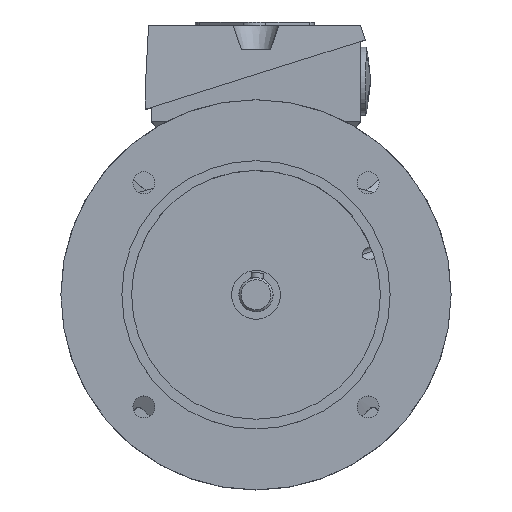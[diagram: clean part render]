
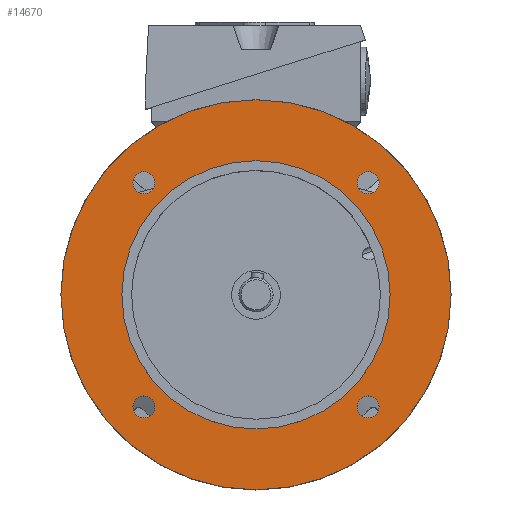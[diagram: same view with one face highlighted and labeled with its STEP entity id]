
A CAD part, top view. The second image highlights one B-rep face of the part: STEP entity #14670.
In plain terms, the highlighted planar face has unit normal (0, 0, 1).
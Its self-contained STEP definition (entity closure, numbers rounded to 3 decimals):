
#71 = CIRCLE ( 'NONE', #12472, 4.5 ) ;
#165 = FACE_BOUND ( 'NONE', #6524, .T. ) ;
#430 = CARTESIAN_POINT ( 'NONE',  ( 45.962, 45.962, 11. ) ) ;
#525 = DIRECTION ( 'NONE',  ( 0., 0., 1. ) ) ;
#562 = VERTEX_POINT ( 'NONE', #15810 ) ;
#591 = AXIS2_PLACEMENT_3D ( 'NONE', #1904, #17075, #798 ) ;
#798 = DIRECTION ( 'NONE',  ( 1., 0., 0. ) ) ;
#1185 = DIRECTION ( 'NONE',  ( 1., 0., 0. ) ) ;
#1286 = VERTEX_POINT ( 'NONE', #11515 ) ;
#1904 = CARTESIAN_POINT ( 'NONE',  ( -45.962, -45.962, 11. ) ) ;
#2006 = EDGE_LOOP ( 'NONE', ( #11601, #9862 ) ) ;
#2332 = CIRCLE ( 'NONE', #11299, 80. ) ;
#2551 = DIRECTION ( 'NONE',  ( 0., 0., 1. ) ) ;
#2607 = CIRCLE ( 'NONE', #5206, 4.5 ) ;
#2693 = VERTEX_POINT ( 'NONE', #7103 ) ;
#2876 = AXIS2_PLACEMENT_3D ( 'NONE', #8389, #13879, #6680 ) ;
#3071 = VERTEX_POINT ( 'NONE', #5876 ) ;
#3089 = CARTESIAN_POINT ( 'NONE',  ( -41.462, 45.962, 11. ) ) ;
#3840 = EDGE_CURVE ( 'NONE', #11540, #17221, #11926, .T. ) ;
#3858 = CIRCLE ( 'NONE', #16841, 4.5 ) ;
#4167 = DIRECTION ( 'NONE',  ( -1., 0., 0. ) ) ;
#4211 = ORIENTED_EDGE ( 'NONE', *, *, #12879, .F. ) ;
#4245 = FACE_BOUND ( 'NONE', #9556, .T. ) ;
#4431 = AXIS2_PLACEMENT_3D ( 'NONE', #10766, #10943, #14905 ) ;
#4500 = CARTESIAN_POINT ( 'NONE',  ( -45.962, -45.962, 11. ) ) ;
#4624 = AXIS2_PLACEMENT_3D ( 'NONE', #4500, #10849, #1185 ) ;
#4732 = CARTESIAN_POINT ( 'NONE',  ( 0., 0., 11. ) ) ;
#5206 = AXIS2_PLACEMENT_3D ( 'NONE', #10104, #9028, #8839 ) ;
#5826 = EDGE_CURVE ( 'NONE', #3071, #8635, #12100, .T. ) ;
#5876 = CARTESIAN_POINT ( 'NONE',  ( -50.462, 45.962, 11. ) ) ;
#5897 = DIRECTION ( 'NONE',  ( 1., 0., 0. ) ) ;
#6194 = VERTEX_POINT ( 'NONE', #13258 ) ;
#6400 = DIRECTION ( 'NONE',  ( 0., 1., 0. ) ) ;
#6428 = CARTESIAN_POINT ( 'NONE',  ( 50.462, -45.962, 11. ) ) ;
#6476 = EDGE_CURVE ( 'NONE', #16672, #1286, #2607, .T. ) ;
#6524 = EDGE_LOOP ( 'NONE', ( #17555, #7233 ) ) ;
#6680 = DIRECTION ( 'NONE',  ( 0., -1., 0. ) ) ;
#6964 = CARTESIAN_POINT ( 'NONE',  ( 0., 55., 11. ) ) ;
#7103 = CARTESIAN_POINT ( 'NONE',  ( 50.462, 45.962, 11. ) ) ;
#7193 = ORIENTED_EDGE ( 'NONE', *, *, #10301, .F. ) ;
#7233 = ORIENTED_EDGE ( 'NONE', *, *, #9941, .F. ) ;
#7728 = EDGE_CURVE ( 'NONE', #9902, #6194, #12774, .T. ) ;
#7948 = EDGE_LOOP ( 'NONE', ( #7193, #15213 ) ) ;
#8127 = DIRECTION ( 'NONE',  ( 0., 0., 1. ) ) ;
#8389 = CARTESIAN_POINT ( 'NONE',  ( -45.962, 45.962, 11. ) ) ;
#8407 = CIRCLE ( 'NONE', #591, 4.5 ) ;
#8619 = DIRECTION ( 'NONE',  ( 0., 0., 1. ) ) ;
#8635 = VERTEX_POINT ( 'NONE', #3089 ) ;
#8739 = AXIS2_PLACEMENT_3D ( 'NONE', #14790, #8127, #13617 ) ;
#8839 = DIRECTION ( 'NONE',  ( 0., 1., 0. ) ) ;
#9028 = DIRECTION ( 'NONE',  ( 0., 0., 1. ) ) ;
#9556 = EDGE_LOOP ( 'NONE', ( #17844, #11426 ) ) ;
#9625 = VERTEX_POINT ( 'NONE', #17619 ) ;
#9757 = FACE_OUTER_BOUND ( 'NONE', #11378, .T. ) ;
#9837 = ORIENTED_EDGE ( 'NONE', *, *, #14210, .F. ) ;
#9862 = ORIENTED_EDGE ( 'NONE', *, *, #16024, .F. ) ;
#9902 = VERTEX_POINT ( 'NONE', #15630 ) ;
#9938 = PLANE ( 'NONE',  #11857 ) ;
#9941 = EDGE_CURVE ( 'NONE', #6194, #9902, #15645, .T. ) ;
#9952 = CARTESIAN_POINT ( 'NONE',  ( 0., 0., 11. ) ) ;
#10104 = CARTESIAN_POINT ( 'NONE',  ( 45.962, -45.962, 11. ) ) ;
#10113 = CIRCLE ( 'NONE', #13566, 4.5 ) ;
#10281 = DIRECTION ( 'NONE',  ( 0., -1., 0. ) ) ;
#10301 = EDGE_CURVE ( 'NONE', #8635, #3071, #3858, .T. ) ;
#10453 = DIRECTION ( 'NONE',  ( 0., 0., 1. ) ) ;
#10766 = CARTESIAN_POINT ( 'NONE',  ( 0., 0., 11. ) ) ;
#10849 = DIRECTION ( 'NONE',  ( 0., 0., 1. ) ) ;
#10943 = DIRECTION ( 'NONE',  ( 0., 0., 1. ) ) ;
#11121 = FACE_BOUND ( 'NONE', #2006, .T. ) ;
#11202 = FACE_BOUND ( 'NONE', #7948, .T. ) ;
#11299 = AXIS2_PLACEMENT_3D ( 'NONE', #9952, #16813, #5897 ) ;
#11336 = CARTESIAN_POINT ( 'NONE',  ( -41.462, -45.962, 11. ) ) ;
#11378 = EDGE_LOOP ( 'NONE', ( #11823, #11951 ) ) ;
#11379 = DIRECTION ( 'NONE',  ( 0., 0., -1. ) ) ;
#11426 = ORIENTED_EDGE ( 'NONE', *, *, #14430, .F. ) ;
#11452 = EDGE_CURVE ( 'NONE', #17221, #11540, #2332, .T. ) ;
#11457 = DIRECTION ( 'NONE',  ( 0., 0., 1. ) ) ;
#11515 = CARTESIAN_POINT ( 'NONE',  ( 41.462, -45.962, 11. ) ) ;
#11540 = VERTEX_POINT ( 'NONE', #11560 ) ;
#11560 = CARTESIAN_POINT ( 'NONE',  ( -80., 0., 11. ) ) ;
#11601 = ORIENTED_EDGE ( 'NONE', *, *, #6476, .F. ) ;
#11807 = CARTESIAN_POINT ( 'NONE',  ( 45.962, -45.962, 11. ) ) ;
#11823 = ORIENTED_EDGE ( 'NONE', *, *, #11452, .T. ) ;
#11831 = CIRCLE ( 'NONE', #4624, 4.5 ) ;
#11857 = AXIS2_PLACEMENT_3D ( 'NONE', #6964, #11379, #15430 ) ;
#11926 = CIRCLE ( 'NONE', #16561, 80. ) ;
#11951 = ORIENTED_EDGE ( 'NONE', *, *, #3840, .T. ) ;
#12100 = CIRCLE ( 'NONE', #2876, 4.5 ) ;
#12472 = AXIS2_PLACEMENT_3D ( 'NONE', #430, #11457, #4167 ) ;
#12757 = AXIS2_PLACEMENT_3D ( 'NONE', #11807, #10453, #6400 ) ;
#12774 = CIRCLE ( 'NONE', #8739, 55. ) ;
#12879 = EDGE_CURVE ( 'NONE', #2693, #9625, #71, .T. ) ;
#12905 = CARTESIAN_POINT ( 'NONE',  ( -45.962, 45.962, 11. ) ) ;
#13258 = CARTESIAN_POINT ( 'NONE',  ( -55., 0., 11. ) ) ;
#13566 = AXIS2_PLACEMENT_3D ( 'NONE', #14825, #2551, #13735 ) ;
#13617 = DIRECTION ( 'NONE',  ( 1., 0., 0. ) ) ;
#13735 = DIRECTION ( 'NONE',  ( -1., 0., 0. ) ) ;
#13879 = DIRECTION ( 'NONE',  ( 0., 0., 1. ) ) ;
#13984 = FACE_BOUND ( 'NONE', #15690, .T. ) ;
#14210 = EDGE_CURVE ( 'NONE', #9625, #2693, #10113, .T. ) ;
#14430 = EDGE_CURVE ( 'NONE', #562, #15097, #8407, .T. ) ;
#14670 = ADVANCED_FACE ( 'NONE', ( #11121, #13984, #11202, #4245, #165, #9757 ), #9938, .F. ) ;
#14771 = CIRCLE ( 'NONE', #12757, 4.5 ) ;
#14790 = CARTESIAN_POINT ( 'NONE',  ( 0., 0., 11. ) ) ;
#14825 = CARTESIAN_POINT ( 'NONE',  ( 45.962, 45.962, 11. ) ) ;
#14905 = DIRECTION ( 'NONE',  ( 1., 0., 0. ) ) ;
#15097 = VERTEX_POINT ( 'NONE', #11336 ) ;
#15213 = ORIENTED_EDGE ( 'NONE', *, *, #5826, .F. ) ;
#15430 = DIRECTION ( 'NONE',  ( -1., 0., 0. ) ) ;
#15630 = CARTESIAN_POINT ( 'NONE',  ( 55., 0., 11. ) ) ;
#15645 = CIRCLE ( 'NONE', #4431, 55. ) ;
#15690 = EDGE_LOOP ( 'NONE', ( #4211, #9837 ) ) ;
#15728 = DIRECTION ( 'NONE',  ( 1., 0., 0. ) ) ;
#15810 = CARTESIAN_POINT ( 'NONE',  ( -50.462, -45.962, 11. ) ) ;
#16024 = EDGE_CURVE ( 'NONE', #1286, #16672, #14771, .T. ) ;
#16561 = AXIS2_PLACEMENT_3D ( 'NONE', #4732, #8619, #15728 ) ;
#16672 = VERTEX_POINT ( 'NONE', #6428 ) ;
#16813 = DIRECTION ( 'NONE',  ( 0., 0., 1. ) ) ;
#16841 = AXIS2_PLACEMENT_3D ( 'NONE', #12905, #525, #10281 ) ;
#17033 = EDGE_CURVE ( 'NONE', #15097, #562, #11831, .T. ) ;
#17075 = DIRECTION ( 'NONE',  ( 0., 0., 1. ) ) ;
#17135 = CARTESIAN_POINT ( 'NONE',  ( 80., 0., 11. ) ) ;
#17221 = VERTEX_POINT ( 'NONE', #17135 ) ;
#17555 = ORIENTED_EDGE ( 'NONE', *, *, #7728, .F. ) ;
#17619 = CARTESIAN_POINT ( 'NONE',  ( 41.462, 45.962, 11. ) ) ;
#17844 = ORIENTED_EDGE ( 'NONE', *, *, #17033, .F. ) ;
